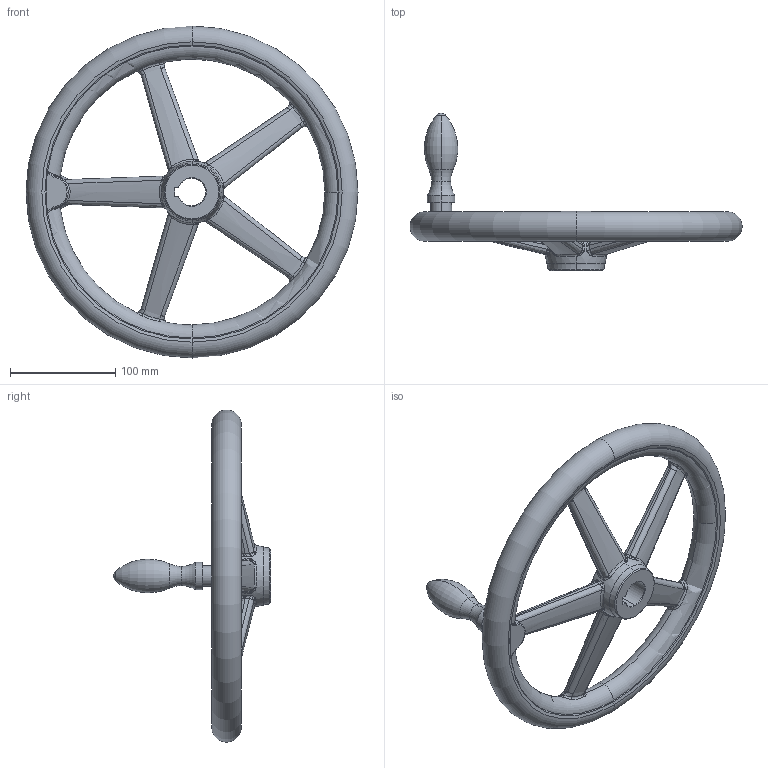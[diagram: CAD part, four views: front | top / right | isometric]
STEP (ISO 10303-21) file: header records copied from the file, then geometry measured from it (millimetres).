
FILE_DESCRIPTION (( 'STEP AP203' ), '1' );
FILE_NAME ('din950_d3_315x26.step', '2010-03-23T10:08:36', ( '_' ), ( '_' ), 'SwSTEP 2.0', 'SolidWorks 2010', '' );
FILE_SCHEMA (( 'CONFIG_CONTROL_DESIGN' ));
Length unit declared in the file: millimetre
Products named in the file (1): din950_d3_315x26
Bounding box: 314.89 x 149.5 x 314.89 mm (x, y, z)
Volume: 888688.1 mm3; surface area: 135185.4 mm2
Topology: 1 solids, 1 shells, 286 faces, 710 edges, 373 vertices
Faces by surface type: bspline 208, torus 26, plane 19, cone 18, cylinder 13, sphere 2
Entity records: 53934 total; most frequent: CARTESIAN_POINT 48616, ORIENTED_EDGE 1332, DIRECTION 688, EDGE_CURVE 666, B_SPLINE_CURVE_WITH_KNOTS 383, VERTEX_POINT 373, AXIS2_PLACEMENT_3D 326, EDGE_LOOP 289
